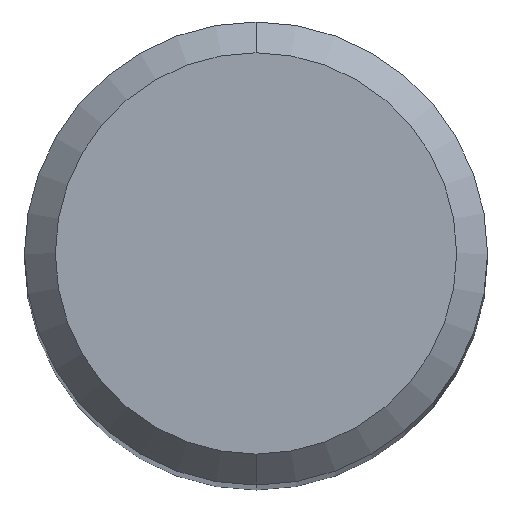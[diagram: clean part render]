
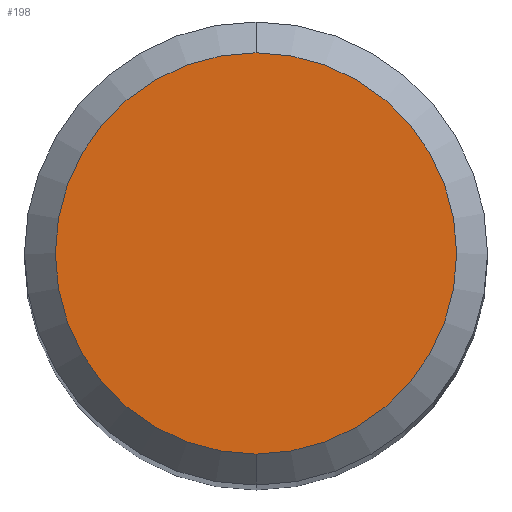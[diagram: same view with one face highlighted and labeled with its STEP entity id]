
A CAD part, top view. The second image highlights one B-rep face of the part: STEP entity #198.
In plain terms, the highlighted free-form (B-spline) face has degree [1, 1] with [2, 2] control points.
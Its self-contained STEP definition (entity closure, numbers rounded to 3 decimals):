
#25=CARTESIAN_POINT('',(0.,0.,0.));
#26=DIRECTION('',(0.,0.,1.));
#27=DIRECTION('',(0.,1.,0.));
#28=AXIS2_PLACEMENT_3D('',#25,#26,#27);
#30=CARTESIAN_POINT('',(0.,0.,0.));
#31=DIRECTION('',(0.,0.,-1.));
#32=DIRECTION('',(0.,1.,0.));
#33=AXIS2_PLACEMENT_3D('',#30,#31,#32);
#160=CARTESIAN_POINT('',(0.,2.6,0.));
#162=VERTEX_POINT('',#160);
#164=CARTESIAN_POINT('',(0.,-2.6,0.));
#166=VERTEX_POINT('',#164);
#187=CARTESIAN_POINT('',(2.704,2.704,0.));
#188=CARTESIAN_POINT('',(-2.704,2.704,0.));
#189=CARTESIAN_POINT('',(2.704,-2.704,0.));
#190=CARTESIAN_POINT('',(-2.704,-2.704,0.));
#191=B_SPLINE_SURFACE_WITH_KNOTS('',1,1,((#187,#188),(#189,#190)),.UNSPECIFIED.,
.F.,.F.,.F.,(2,2),(2,2),(-2.704,2.704),(-2.704,2.704),
.UNSPECIFIED.);
#193=ORIENTED_EDGE('',*,*,#192,.F.);
#195=ORIENTED_EDGE('',*,*,#194,.T.);
#196=EDGE_LOOP('',(#193,#195));
#197=FACE_OUTER_BOUND('',#196,.F.);
#29=CIRCLE('',#28,2.6);
#34=CIRCLE('',#33,2.6);
#192=EDGE_CURVE('',#162,#166,#29,.T.);
#194=EDGE_CURVE('',#162,#166,#34,.T.);
#198=ADVANCED_FACE('',(#197),#191,.F.);
